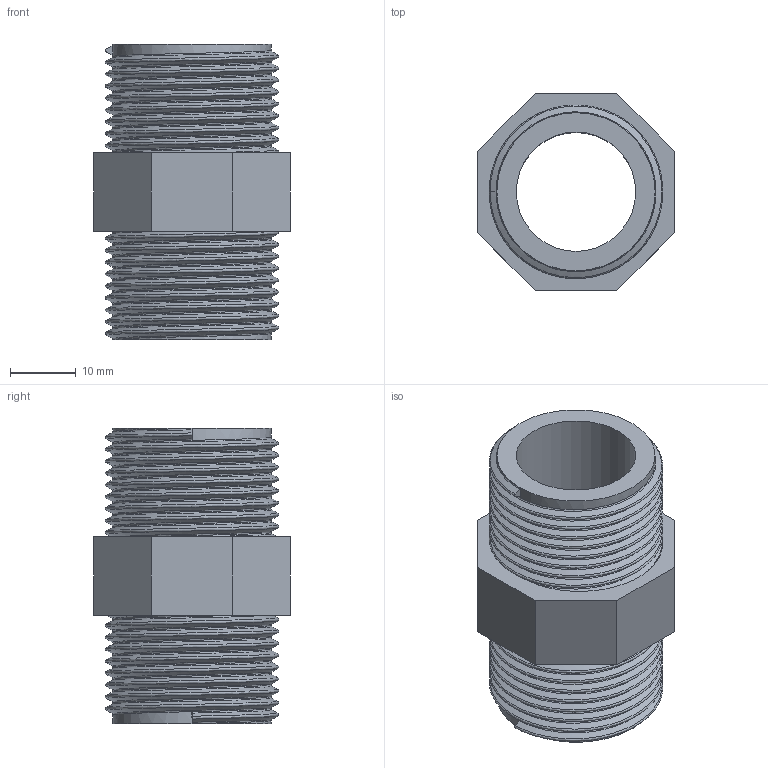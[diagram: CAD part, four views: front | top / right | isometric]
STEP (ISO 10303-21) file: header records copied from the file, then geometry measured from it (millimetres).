
FILE_DESCRIPTION(/* description */ ('PVC-U nipplo filettato BSP'),/* implementation_level */ '2;1');
FILE_NAME(/* name */ 'C:\Users\POLYPIPE\Desktop\DATASET INVENTOR\LIBRERIA EFFAST\RACCORDI 3DxWEB\RER\3D_RERNIE\3D_RERNIE025C.stp',/* time_stamp */ '2018-01-19T16:42:51+01:00',/* author */ ('POLYPIPE'),/* organization */ ('Polypipe Italia s.r.l.'),/* preprocessor_version */ 'ST-DEVELOPER v16.1',/* originating_system */ 'Autodesk Inventor 2016',/* authorisation */ '');
FILE_SCHEMA (('CONFIG_CONTROL_DESIGN'));
Length unit declared in the file: millimetre
Products named in the file (1): 3D_RERNIE
Bounding box: 30 x 30 x 45 mm (x, y, z)
Volume: 13739.8 mm3; surface area: 9020.4 mm2
Topology: 1 solids, 1 shells, 27 faces, 63 edges, 40 vertices
Faces by surface type: plane 14, bspline 10, cylinder 3
Full cylindrical faces by diameter (mm): 18.2 x1, 24.117 x2
Entity records: 7565 total; most frequent: CARTESIAN_POINT 6987, ORIENTED_EDGE 124, DIRECTION 86, EDGE_CURVE 62, VERTEX_POINT 40, EDGE_LOOP 32, LINE 30, VECTOR 30
